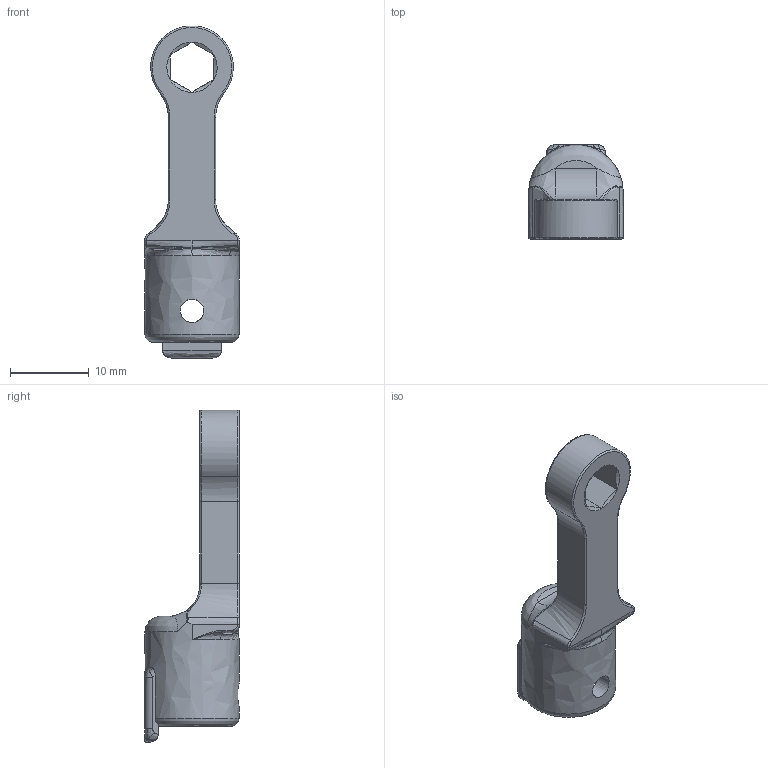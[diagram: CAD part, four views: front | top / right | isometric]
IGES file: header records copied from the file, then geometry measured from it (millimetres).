
Global section: file name: RH8DX5.5; native system: Autodesk Inventor 2016; preprocessor: unknown; author: Q600; date: 20151110.153542; units: millimetre
Bounding box: 12 x 12 x 42.24 mm (x, y, z)
Volume: 1903.2 mm3; surface area: 1706.7 mm2
Topology: 1 solids, 1 shells, 105 faces, 267 edges, 157 vertices
Faces by surface type: bspline 105
